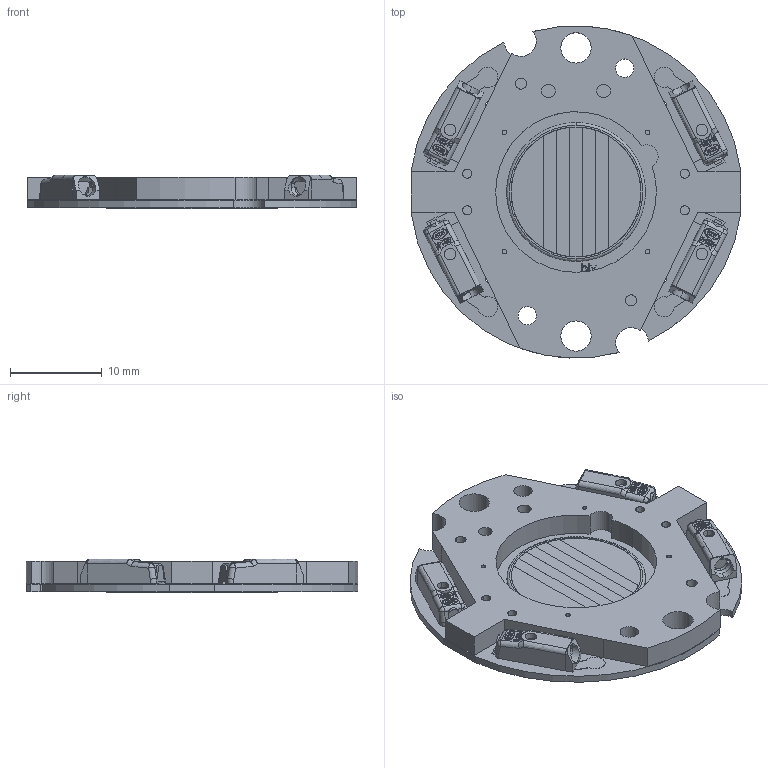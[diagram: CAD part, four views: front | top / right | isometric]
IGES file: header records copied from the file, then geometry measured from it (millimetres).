
Start section: SolidWorks IGES file using analytic representation for surfaces
Global section: file name: C:\Users\jiaqichen\Desktop\DW TW Holder-CoB\New folder\NTW 13 Holder-CoB Assembly.IGS; native system: SolidWorks 2020; preprocessor: SolidWorks 2020; author: jiaqichen; date: 200814.175442; units: millimetre
Bounding box: 35.86 x 36.17 x 3.69 mm (x, y, z)
Volume: 2302.1 mm3; surface area: 4202.7 mm2
Topology: 1 solids, 1 shells, 1605 faces, 4392 edges, 2886 vertices
Faces by surface type: plane 987, revolution 538, bspline 80
